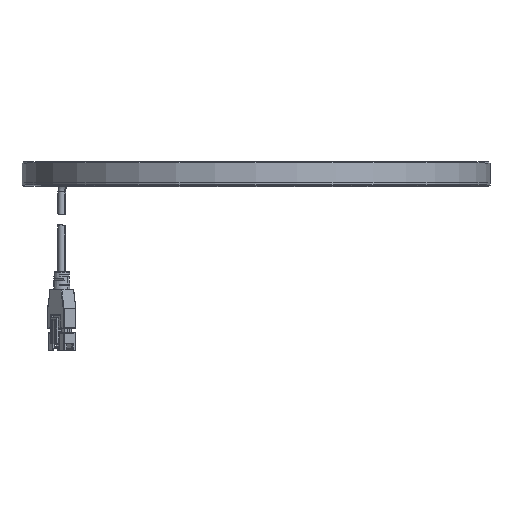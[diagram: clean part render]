
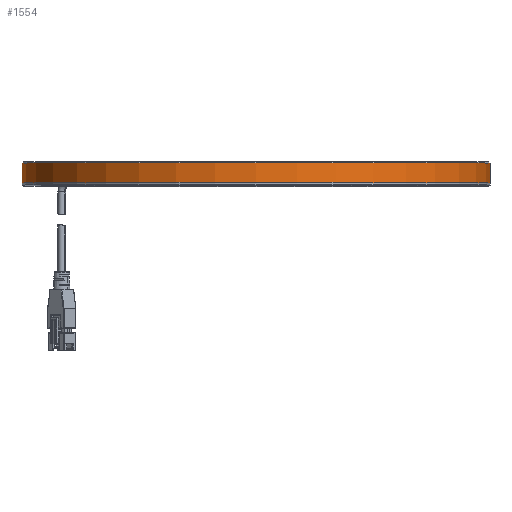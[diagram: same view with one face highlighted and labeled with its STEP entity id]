
A CAD part, top view. The second image highlights one B-rep face of the part: STEP entity #1554.
In plain terms, the highlighted cylindrical face has radius 106.5 mm (diameter 213 mm), a partial arc.
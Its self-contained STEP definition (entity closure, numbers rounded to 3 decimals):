
#84=CARTESIAN_POINT('',(0.,-9.5,0.));
#85=DIRECTION('',(0.,1.,0.));
#86=DIRECTION('',(-1.,0.,0.));
#87=AXIS2_PLACEMENT_3D('',#84,#85,#86);
#284=DIRECTION('',(0.,-1.,0.));
#285=VECTOR('',#284,9.);
#286=CARTESIAN_POINT('',(-106.5,-0.5,0.));
#287=LINE('',#286,#285);
#338=DIRECTION('',(0.,-1.,0.));
#339=VECTOR('',#338,9.);
#340=CARTESIAN_POINT('',(106.5,-0.5,0.));
#341=LINE('',#340,#339);
#342=CARTESIAN_POINT('',(0.,-0.5,0.));
#343=DIRECTION('',(0.,-1.,0.));
#344=DIRECTION('',(1.,0.,0.));
#345=AXIS2_PLACEMENT_3D('',#342,#343,#344);
#347=CARTESIAN_POINT('',(0.,-0.5,0.));
#348=DIRECTION('',(0.,-1.,0.));
#349=DIRECTION('',(0.,0.,1.));
#350=AXIS2_PLACEMENT_3D('',#347,#348,#349);
#982=CARTESIAN_POINT('',(106.5,-0.5,0.));
#983=VERTEX_POINT('',#982);
#984=CARTESIAN_POINT('',(0.,-0.5,106.5));
#985=CARTESIAN_POINT('',(-106.5,-0.5,0.));
#986=VERTEX_POINT('',#984);
#987=VERTEX_POINT('',#985);
#997=CARTESIAN_POINT('',(106.5,-9.5,0.));
#998=VERTEX_POINT('',#997);
#999=CARTESIAN_POINT('',(-106.5,-9.5,0.));
#1000=VERTEX_POINT('',#999);
#1540=CARTESIAN_POINT('',(0.,0.475,0.));
#1541=DIRECTION('',(0.,-1.,0.));
#1542=DIRECTION('',(-1.,0.,0.));
#1543=AXIS2_PLACEMENT_3D('',#1540,#1541,#1542);
#1544=CYLINDRICAL_SURFACE('',#1543,106.5);
#1546=ORIENTED_EDGE('',*,*,#1545,.F.);
#1548=ORIENTED_EDGE('',*,*,#1547,.F.);
#1549=ORIENTED_EDGE('',*,*,#1378,.T.);
#1550=ORIENTED_EDGE('',*,*,#1195,.F.);
#1551=ORIENTED_EDGE('',*,*,#1384,.F.);
#1552=EDGE_LOOP('',(#1546,#1548,#1549,#1550,#1551));
#1553=FACE_OUTER_BOUND('',#1552,.F.);
#88=CIRCLE('',#87,106.5);
#346=CIRCLE('',#345,106.5);
#351=CIRCLE('',#350,106.5);
#1195=EDGE_CURVE('',#1000,#998,#88,.T.);
#1378=EDGE_CURVE('',#983,#998,#341,.T.);
#1384=EDGE_CURVE('',#987,#1000,#287,.T.);
#1545=EDGE_CURVE('',#986,#987,#351,.T.);
#1547=EDGE_CURVE('',#983,#986,#346,.T.);
#1554=ADVANCED_FACE('',(#1553),#1544,.T.);
